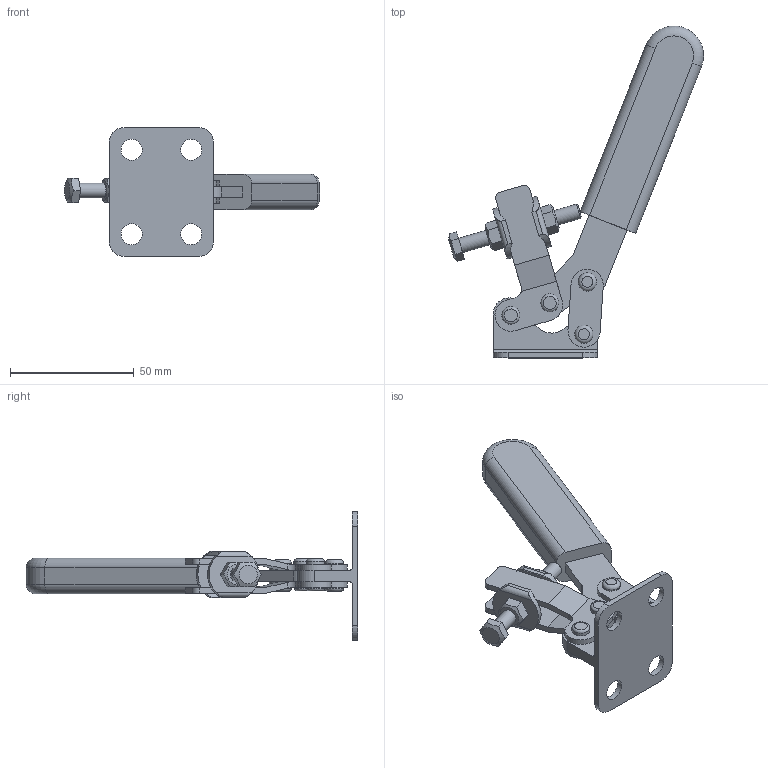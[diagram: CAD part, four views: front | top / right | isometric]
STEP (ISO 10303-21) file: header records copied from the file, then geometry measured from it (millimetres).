
FILE_DESCRIPTION(/* description */ (''),/* implementation_level */ '2;1');
FILE_NAME(/* name */ 'D:\3D作業領域\3D\38BS\No.38BS(38BS-2S)(ul).stp',/* time_stamp */ '2021-12-01T10:02:01+09:00',/* author */ ('y-takahashi'),/* organization */ (''),/* preprocessor_version */ 'ST-DEVELOPER v18',/* originating_system */ 'Autodesk Inventor 2020',/* authorisation */ '');
FILE_SCHEMA (('AUTOMOTIVE_DESIGN { 1 0 10303 214 3 1 1 }'));
Length unit declared in the file: millimetre
Products named in the file (9): No.38BS(38BS-2S)(ul); 38B(S)ベース1; 38(S)アーム; 38(S)リンク; 38(S) ハンドル3; 38(S)GRP; 38(S)座金; ボルト M6×50; M6ナット
Assembly tree (9 placements, depth 2):
  No.38BS(38BS-2S)(ul)
    38B(S)ベース1
    38(S)アーム
    38(S)リンク
    38(S) ハンドル3
    38(S)GRP
    38(S)座金
    ボルト M6×50
    M6ナット  x2
Bounding box: 102.89 x 133.84 x 52 mm (x, y, z)
Volume: 47751.2 mm3; surface area: 29960 mm2
Topology: 11 solids, 11 shells, 215 faces, 500 edges, 333 vertices
Faces by surface type: plane 116, cylinder 81, torus 14, cone 4
Full cylindrical faces by diameter (mm): 3.2 x2, 3.3 x4, 4.98 x4, 5 x12, 6 x3, 6.2 x2, 7.2 x2, 7.4 x2, 7.6 x4, 8.5 x4
Entity records: 6394 total; most frequent: CARTESIAN_POINT 1128, DIRECTION 1113, ORIENTED_EDGE 952, EDGE_CURVE 476, AXIS2_PLACEMENT_3D 434, VERTEX_POINT 317, EDGE_LOOP 259, LINE 245
